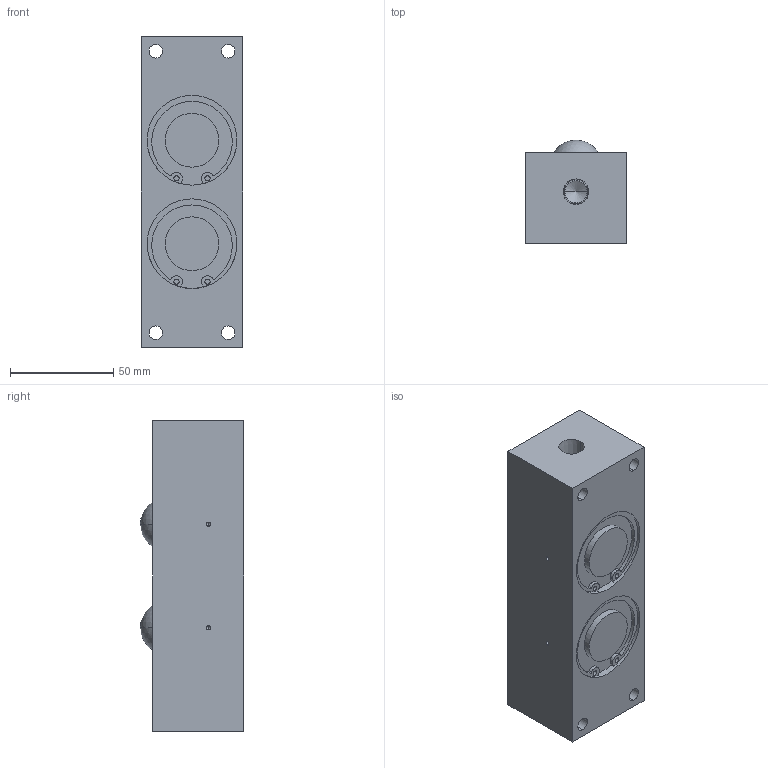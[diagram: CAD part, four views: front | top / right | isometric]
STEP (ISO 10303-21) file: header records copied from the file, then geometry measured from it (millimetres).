
FILE_DESCRIPTION (( 'STEP AP203' ), '1' );
FILE_NAME ('PVL55SW-2.STEP', '2016-01-06T02:02:58', ( '' ), ( '' ), 'SwSTEP 2.0', 'SolidWorks 2013', '' );
FILE_SCHEMA (( 'CONFIG_CONTROL_DESIGN' ));
Length unit declared in the file: millimetre
Products named in the file (1): PVL55SW-2
Bounding box: 49 x 50 x 150 mm (x, y, z)
Volume: 311139.5 mm3; surface area: 42366 mm2
Topology: 2 solids, 2 shells, 138 faces, 320 edges, 204 vertices
Faces by surface type: cylinder 78, plane 42, cone 14, sphere 4
Entity records: 4003 total; most frequent: DIRECTION 758, CARTESIAN_POINT 651, ORIENTED_EDGE 616, AXIS2_PLACEMENT_3D 311, EDGE_CURVE 308, VERTEX_POINT 204, EDGE_LOOP 176, CIRCLE 172
